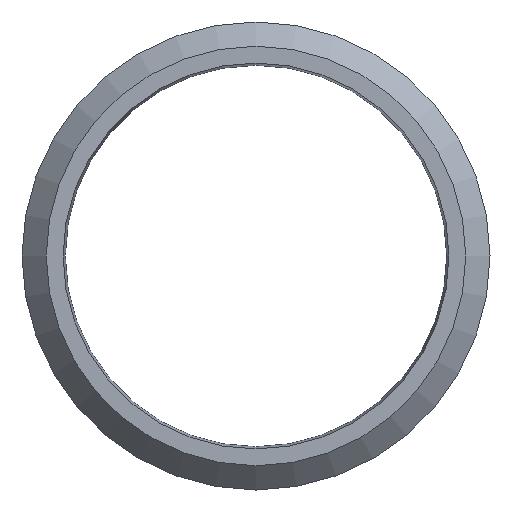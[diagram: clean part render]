
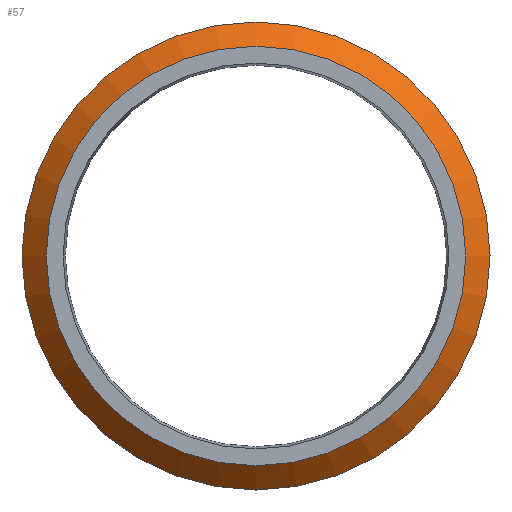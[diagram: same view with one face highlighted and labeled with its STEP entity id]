
A CAD part, left-side view. The second image highlights one B-rep face of the part: STEP entity #57.
In plain terms, the highlighted conical face has half-angle 45 degrees and reference radius 12.8 mm.
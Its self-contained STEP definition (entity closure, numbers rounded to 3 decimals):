
#57 = ADVANCED_FACE( '', ( #122, #123 ), #124, .T. );
#122 = FACE_BOUND( '', #189, .T. );
#123 = FACE_OUTER_BOUND( '', #190, .T. );
#124 = CONICAL_SURFACE( '', #191, 12.8, 0.785 );
#189 = EDGE_LOOP( '', ( #268 ) );
#190 = EDGE_LOOP( '', ( #269 ) );
#191 = AXIS2_PLACEMENT_3D( '', #270, #271, #272 );
#268 = ORIENTED_EDGE( '', *, *, #326, .T. );
#269 = ORIENTED_EDGE( '', *, *, #313, .T. );
#270 = CARTESIAN_POINT( '', ( -5.125, -6.633, 0. ) );
#271 = DIRECTION( '', ( 1., 0., 0. ) );
#272 = DIRECTION( '', ( 0., -1., 0. ) );
#313 = EDGE_CURVE( '', #349, #349, #350, .T. );
#326 = EDGE_CURVE( '', #369, #369, #370, .T. );
#349 = VERTEX_POINT( '', #394 );
#350 = CIRCLE( '', #395, 13.5 );
#369 = VERTEX_POINT( '', #414 );
#370 = CIRCLE( '', #415, 12.1 );
#394 = CARTESIAN_POINT( '', ( -4.425, -20.133, 0. ) );
#395 = AXIS2_PLACEMENT_3D( '', #441, #442, #443 );
#414 = CARTESIAN_POINT( '', ( -5.825, -18.733, 0. ) );
#415 = AXIS2_PLACEMENT_3D( '', #462, #463, #464 );
#441 = CARTESIAN_POINT( '', ( -4.425, -6.633, 0. ) );
#442 = DIRECTION( '', ( -1., 0., 0. ) );
#443 = DIRECTION( '', ( 0., -1., 0. ) );
#462 = CARTESIAN_POINT( '', ( -5.825, -6.633, 0. ) );
#463 = DIRECTION( '', ( 1., 0., 0. ) );
#464 = DIRECTION( '', ( 0., -1., 0. ) );
